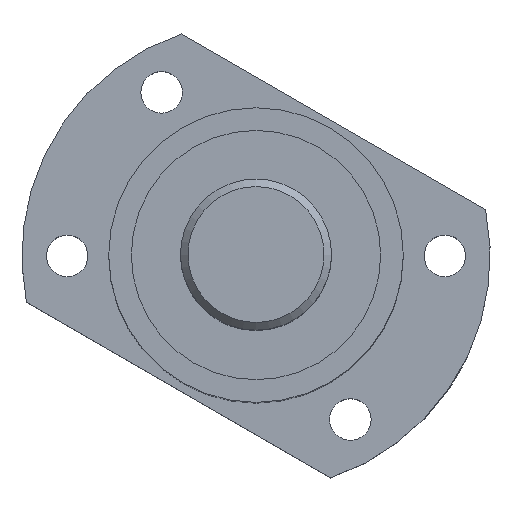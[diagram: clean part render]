
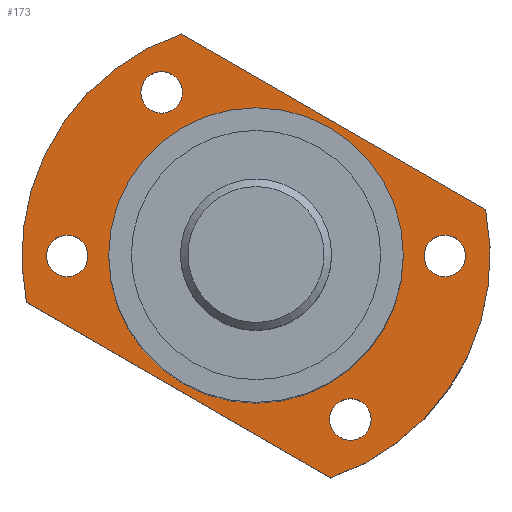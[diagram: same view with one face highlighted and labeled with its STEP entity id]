
A CAD part, top view. The second image highlights one B-rep face of the part: STEP entity #173.
In plain terms, the highlighted planar face has unit normal (0, 0, 1) as drawn and (1, 0, 0) by its records, which use the part's own axes.
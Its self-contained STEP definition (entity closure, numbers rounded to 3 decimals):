
#117=LINE('',#1272,#125);
#118=LINE('',#1273,#126);
#125=VECTOR('',#953,1.);
#126=VECTOR('',#954,1.);
#138=PLANE('',#787);
#173=ADVANCED_FACE('',(#275,#276,#277,#278,#279,#280),#138,.F.);
#275=FACE_BOUND('',#376,.T.);
#276=FACE_BOUND('',#377,.T.);
#277=FACE_BOUND('',#378,.T.);
#278=FACE_BOUND('',#379,.T.);
#279=FACE_BOUND('',#380,.T.);
#280=FACE_BOUND('',#381,.T.);
#376=EDGE_LOOP('',(#491));
#377=EDGE_LOOP('',(#492));
#378=EDGE_LOOP('',(#493));
#379=EDGE_LOOP('',(#494));
#380=EDGE_LOOP('',(#495));
#381=EDGE_LOOP('',(#496,#497,#498,#499));
#491=ORIENTED_EDGE('',*,*,#622,.F.);
#492=ORIENTED_EDGE('',*,*,#654,.T.);
#493=ORIENTED_EDGE('',*,*,#655,.T.);
#494=ORIENTED_EDGE('',*,*,#656,.T.);
#495=ORIENTED_EDGE('',*,*,#657,.T.);
#496=ORIENTED_EDGE('',*,*,#658,.F.);
#497=ORIENTED_EDGE('',*,*,#647,.F.);
#498=ORIENTED_EDGE('',*,*,#659,.F.);
#499=ORIENTED_EDGE('',*,*,#640,.F.);
#564=VERTEX_POINT('',#1069);
#581=VERTEX_POINT('',#1177);
#583=VERTEX_POINT('',#1180);
#587=VERTEX_POINT('',#1246);
#589=VERTEX_POINT('',#1250);
#594=VERTEX_POINT('',#1265);
#595=VERTEX_POINT('',#1267);
#596=VERTEX_POINT('',#1269);
#597=VERTEX_POINT('',#1271);
#622=EDGE_CURVE('',#564,#564,#684,.T.);
#640=EDGE_CURVE('',#581,#583,#700,.T.);
#647=EDGE_CURVE('',#589,#587,#703,.T.);
#654=EDGE_CURVE('',#594,#594,#708,.T.);
#655=EDGE_CURVE('',#595,#595,#709,.T.);
#656=EDGE_CURVE('',#596,#596,#710,.T.);
#657=EDGE_CURVE('',#597,#597,#711,.T.);
#658=EDGE_CURVE('',#587,#581,#117,.T.);
#659=EDGE_CURVE('',#583,#589,#118,.T.);
#684=CIRCLE('',#739,19.5);
#700=CIRCLE('',#772,31.);
#703=CIRCLE('',#776,31.);
#708=CIRCLE('',#783,2.75);
#709=CIRCLE('',#784,2.75);
#710=CIRCLE('',#785,2.75);
#711=CIRCLE('',#786,2.75);
#739=AXIS2_PLACEMENT_3D('',#1068,#851,#852);
#772=AXIS2_PLACEMENT_3D('',#1179,#918,#919);
#776=AXIS2_PLACEMENT_3D('',#1251,#929,#930);
#783=AXIS2_PLACEMENT_3D('',#1264,#945,#946);
#784=AXIS2_PLACEMENT_3D('',#1266,#947,#948);
#785=AXIS2_PLACEMENT_3D('',#1268,#949,#950);
#786=AXIS2_PLACEMENT_3D('',#1270,#951,#952);
#787=AXIS2_PLACEMENT_3D('',#1274,#955,#956);
#851=DIRECTION('',(1.,0.,0.));
#852=DIRECTION('',(0.,0.,1.));
#918=DIRECTION('',(-1.,0.,0.));
#919=DIRECTION('',(0.,-0.866,0.5));
#929=DIRECTION('',(-1.,0.,0.));
#930=DIRECTION('',(0.,-0.866,0.5));
#945=DIRECTION('',(-1.,0.,0.));
#946=DIRECTION('',(0.,-0.866,0.5));
#947=DIRECTION('',(-1.,0.,0.));
#948=DIRECTION('',(0.,-0.866,0.5));
#949=DIRECTION('',(-1.,0.,0.));
#950=DIRECTION('',(0.,-0.866,0.5));
#951=DIRECTION('',(-1.,0.,0.));
#952=DIRECTION('',(0.,-0.866,0.5));
#953=DIRECTION('',(0.,0.5,0.866));
#954=DIRECTION('',(0.,-0.5,-0.866));
#955=DIRECTION('',(-1.,0.,0.));
#956=DIRECTION('',(0.,-0.866,0.5));
#1068=CARTESIAN_POINT('',(-65.,0.,0.));
#1069=CARTESIAN_POINT('',(-65.,0.,19.5));
#1177=CARTESIAN_POINT('',(-65.,-6.127,30.389));
#1179=CARTESIAN_POINT('',(-65.,0.,0.));
#1180=CARTESIAN_POINT('',(-65.,29.381,9.889));
#1246=CARTESIAN_POINT('',(-65.,-29.381,-9.889));
#1250=CARTESIAN_POINT('',(-65.,6.127,-30.389));
#1251=CARTESIAN_POINT('',(-65.,0.,0.));
#1264=CARTESIAN_POINT('',(-65.,-21.651,-12.5));
#1265=CARTESIAN_POINT('',(-65.,-24.032,-11.125));
#1266=CARTESIAN_POINT('',(-65.,0.,-25.));
#1267=CARTESIAN_POINT('',(-65.,-2.382,-23.625));
#1268=CARTESIAN_POINT('',(-65.,0.,25.));
#1269=CARTESIAN_POINT('',(-65.,-2.382,26.375));
#1270=CARTESIAN_POINT('',(-65.,21.651,12.5));
#1271=CARTESIAN_POINT('',(-65.,19.269,13.875));
#1272=CARTESIAN_POINT('',(-65.,-8.754,25.838));
#1273=CARTESIAN_POINT('',(-65.,26.754,5.338));
#1274=CARTESIAN_POINT('',(-65.,9.,15.588));
